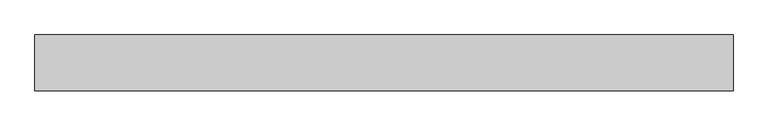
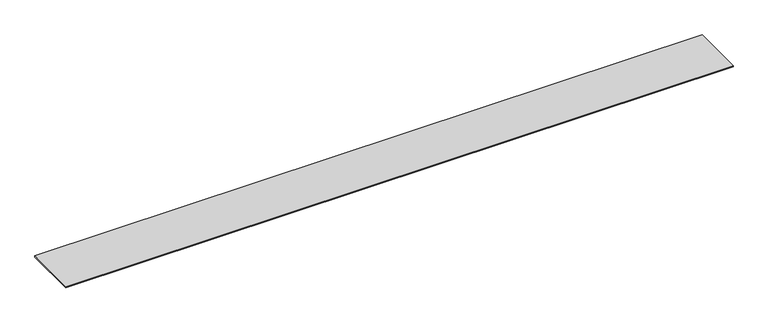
"""IFC4 building model written with IfcOpenShell, lengths in millimetres: beam geometry, Caillebotis 95290 : Caillebotis 95290."""

from ifc_helpers import new_model, si_unit, frame, origin, place, context, project, spatial, polyline, outline, extrude, source, transform, mapped, element, save


def beam_52587db2(model_context):
    return source(origin(), model_context, "Body", "SweptSolid", [
        extrude(outline(polyline([(15389.9999999, -34466.5), (15389.9999999, -35711.5), (-180.0000001, -35711.5), (-180.0000001, -34466.5), (15389.9999999, -34466.5)])), frame((0.0, 0.0, 8110.0), z_axis=(0.0, 0.0, 1.0), x_axis=(1.0, 0.0, 0.0)), (0.0, 0.0, 1.0), 30.0),
    ])


if __name__ == "__main__":
    model = new_model("IFC4")
    model_context = context("Model", 3, world=origin())
    ifc_project = project(units=[si_unit("LENGTHUNIT", "METRE", prefix="MILLI")], contexts=[model_context])
    site = spatial("IfcSite", under=ifc_project)
    building = spatial("IfcBuilding", under=site)
    placement = place(None, origin())
    beam_shape = beam_52587db2(model_context)
    element("IfcBeam", 1, ObjectType="Caillebotis 95290 : Caillebotis 95290", at=placement, inside=building, context=model_context, shape_type="MappedRepresentation", body=[
        mapped(beam_shape, transform((0.0, 0.0, 0.0), x_axis=(1.0, 0.0, 0.0), y_axis=(0.0, 1.0, 0.0), z_axis=(0.0, 0.0, 1.0))),
    ])
    save(model, "model.ifc")
